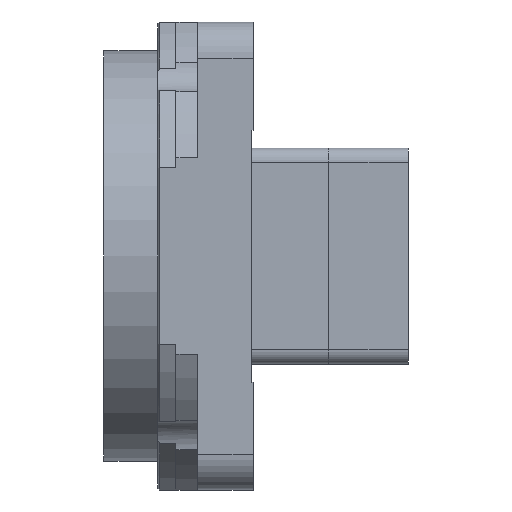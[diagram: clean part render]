
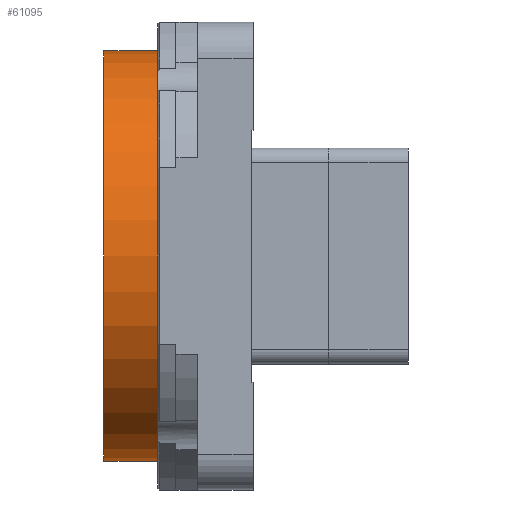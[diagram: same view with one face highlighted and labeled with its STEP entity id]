
A CAD part, left-side view. The second image highlights one B-rep face of the part: STEP entity #61095.
In plain terms, the highlighted cylindrical face has radius 57 mm (diameter 114 mm), a partial arc.
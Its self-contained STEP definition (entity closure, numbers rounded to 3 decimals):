
#55751 = PLANE('',#55752);
#55752 = AXIS2_PLACEMENT_3D('',#55753,#55754,#55755);
#55753 = CARTESIAN_POINT('',(-90.05,4.99,
    159.4));
#55754 = DIRECTION('',(0.,1.,0.));
#55755 = DIRECTION('',(0.,-0.,1.));
#59809 = VERTEX_POINT('',#59810);
#59810 = CARTESIAN_POINT('',(-90.05,4.99,
    102.4));
#59811 = VERTEX_POINT('',#59812);
#59812 = CARTESIAN_POINT('',(-90.05,4.99,
    216.4));
#59831 = CYLINDRICAL_SURFACE('',#59832,57.);
#59832 = AXIS2_PLACEMENT_3D('',#59833,#59834,#59835);
#59833 = CARTESIAN_POINT('',(-90.05,20.09,
    159.4));
#59834 = DIRECTION('',(-0.,-1.,-0.));
#59835 = DIRECTION('',(0.,0.,-1.));
#59843 = EDGE_CURVE('',#59811,#59809,#59844,.T.);
#59844 = SURFACE_CURVE('',#59845,(#59850,#59861),.PCURVE_S1.);
#59845 = CIRCLE('',#59846,57.);
#59846 = AXIS2_PLACEMENT_3D('',#59847,#59848,#59849);
#59847 = CARTESIAN_POINT('',(-90.05,4.99,
    159.4));
#59848 = DIRECTION('',(0.,-1.,-0.));
#59849 = DIRECTION('',(0.,0.,-1.));
#59850 = PCURVE('',#55751,#59851);
#59851 = DEFINITIONAL_REPRESENTATION('',(#59852),#59860);
#59852 = ( BOUNDED_CURVE() B_SPLINE_CURVE(2,(#59853,#59854,#59855,#59856
    ,#59857,#59858,#59859),.UNSPECIFIED.,.T.,.F.) 
B_SPLINE_CURVE_WITH_KNOTS((1,2,2,2,2,1),(-2.094,0.,
    2.094,4.189,6.283,8.378),
.UNSPECIFIED.) CURVE() GEOMETRIC_REPRESENTATION_ITEM() 
RATIONAL_B_SPLINE_CURVE((1.,0.5,1.,0.5,1.,0.5,1.)) REPRESENTATION_ITEM(
  '') );
#59853 = CARTESIAN_POINT('',(-57.,0.));
#59854 = CARTESIAN_POINT('',(-57.,98.727));
#59855 = CARTESIAN_POINT('',(28.5,49.363));
#59856 = CARTESIAN_POINT('',(114.,0.));
#59857 = CARTESIAN_POINT('',(28.5,-49.363));
#59858 = CARTESIAN_POINT('',(-57.,-98.727));
#59859 = CARTESIAN_POINT('',(-57.,0.));
#59860 = ( GEOMETRIC_REPRESENTATION_CONTEXT(2) 
PARAMETRIC_REPRESENTATION_CONTEXT() REPRESENTATION_CONTEXT('2D SPACE',''
  ) );
#59861 = PCURVE('',#59862,#59867);
#59862 = CYLINDRICAL_SURFACE('',#59863,57.);
#59863 = AXIS2_PLACEMENT_3D('',#59864,#59865,#59866);
#59864 = CARTESIAN_POINT('',(-90.05,20.09,
    159.4));
#59865 = DIRECTION('',(-0.,-1.,-0.));
#59866 = DIRECTION('',(0.,0.,-1.));
#59867 = DEFINITIONAL_REPRESENTATION('',(#59868),#59872);
#59868 = LINE('',#59869,#59870);
#59869 = CARTESIAN_POINT('',(0.,15.1));
#59870 = VECTOR('',#59871,1.);
#59871 = DIRECTION('',(1.,0.));
#59872 = ( GEOMETRIC_REPRESENTATION_CONTEXT(2) 
PARAMETRIC_REPRESENTATION_CONTEXT() REPRESENTATION_CONTEXT('2D SPACE',''
  ) );
#61019 = VERTEX_POINT('',#61020);
#61020 = CARTESIAN_POINT('',(-90.05,20.09,
    102.4));
#61021 = VERTEX_POINT('',#61022);
#61022 = CARTESIAN_POINT('',(-90.05,20.09,
    216.4));
#61037 = PLANE('',#61038);
#61038 = AXIS2_PLACEMENT_3D('',#61039,#61040,#61041);
#61039 = CARTESIAN_POINT('',(-90.05,20.09,
    159.4));
#61040 = DIRECTION('',(0.,1.,0.));
#61041 = DIRECTION('',(0.,-0.,1.));
#61053 = EDGE_CURVE('',#61021,#59811,#61054,.T.);
#61054 = SURFACE_CURVE('',#61055,(#61059,#61066),.PCURVE_S1.);
#61055 = LINE('',#61056,#61057);
#61056 = CARTESIAN_POINT('',(-90.05,20.09,
    216.4));
#61057 = VECTOR('',#61058,1.);
#61058 = DIRECTION('',(-0.,-1.,-0.));
#61059 = PCURVE('',#59831,#61060);
#61060 = DEFINITIONAL_REPRESENTATION('',(#61061),#61065);
#61061 = LINE('',#61062,#61063);
#61062 = CARTESIAN_POINT('',(3.142,0.));
#61063 = VECTOR('',#61064,1.);
#61064 = DIRECTION('',(0.,1.));
#61065 = ( GEOMETRIC_REPRESENTATION_CONTEXT(2) 
PARAMETRIC_REPRESENTATION_CONTEXT() REPRESENTATION_CONTEXT('2D SPACE',''
  ) );
#61066 = PCURVE('',#59862,#61067);
#61067 = DEFINITIONAL_REPRESENTATION('',(#61068),#61072);
#61068 = LINE('',#61069,#61070);
#61069 = CARTESIAN_POINT('',(3.142,0.));
#61070 = VECTOR('',#61071,1.);
#61071 = DIRECTION('',(0.,1.));
#61072 = ( GEOMETRIC_REPRESENTATION_CONTEXT(2) 
PARAMETRIC_REPRESENTATION_CONTEXT() REPRESENTATION_CONTEXT('2D SPACE',''
  ) );
#61075 = EDGE_CURVE('',#61019,#59809,#61076,.T.);
#61076 = SURFACE_CURVE('',#61077,(#61081,#61088),.PCURVE_S1.);
#61077 = LINE('',#61078,#61079);
#61078 = CARTESIAN_POINT('',(-90.05,20.09,
    102.4));
#61079 = VECTOR('',#61080,1.);
#61080 = DIRECTION('',(-0.,-1.,-0.));
#61081 = PCURVE('',#59831,#61082);
#61082 = DEFINITIONAL_REPRESENTATION('',(#61083),#61087);
#61083 = LINE('',#61084,#61085);
#61084 = CARTESIAN_POINT('',(0.,0.));
#61085 = VECTOR('',#61086,1.);
#61086 = DIRECTION('',(0.,1.));
#61087 = ( GEOMETRIC_REPRESENTATION_CONTEXT(2) 
PARAMETRIC_REPRESENTATION_CONTEXT() REPRESENTATION_CONTEXT('2D SPACE',''
  ) );
#61088 = PCURVE('',#59862,#61089);
#61089 = DEFINITIONAL_REPRESENTATION('',(#61090),#61094);
#61090 = LINE('',#61091,#61092);
#61091 = CARTESIAN_POINT('',(6.283,0.));
#61092 = VECTOR('',#61093,1.);
#61093 = DIRECTION('',(0.,1.));
#61094 = ( GEOMETRIC_REPRESENTATION_CONTEXT(2) 
PARAMETRIC_REPRESENTATION_CONTEXT() REPRESENTATION_CONTEXT('2D SPACE',''
  ) );
#61095 = ADVANCED_FACE('',(#61096),#59862,.T.);
#61096 = FACE_BOUND('',#61097,.T.);
#61097 = EDGE_LOOP('',(#61098,#61099,#61125,#61126));
#61098 = ORIENTED_EDGE('',*,*,#61053,.F.);
#61099 = ORIENTED_EDGE('',*,*,#61100,.T.);
#61100 = EDGE_CURVE('',#61021,#61019,#61101,.T.);
#61101 = SURFACE_CURVE('',#61102,(#61107,#61114),.PCURVE_S1.);
#61102 = CIRCLE('',#61103,57.);
#61103 = AXIS2_PLACEMENT_3D('',#61104,#61105,#61106);
#61104 = CARTESIAN_POINT('',(-90.05,20.09,
    159.4));
#61105 = DIRECTION('',(0.,-1.,-0.));
#61106 = DIRECTION('',(0.,0.,-1.));
#61107 = PCURVE('',#59862,#61108);
#61108 = DEFINITIONAL_REPRESENTATION('',(#61109),#61113);
#61109 = LINE('',#61110,#61111);
#61110 = CARTESIAN_POINT('',(0.,0.));
#61111 = VECTOR('',#61112,1.);
#61112 = DIRECTION('',(1.,0.));
#61113 = ( GEOMETRIC_REPRESENTATION_CONTEXT(2) 
PARAMETRIC_REPRESENTATION_CONTEXT() REPRESENTATION_CONTEXT('2D SPACE',''
  ) );
#61114 = PCURVE('',#61037,#61115);
#61115 = DEFINITIONAL_REPRESENTATION('',(#61116),#61124);
#61116 = ( BOUNDED_CURVE() B_SPLINE_CURVE(2,(#61117,#61118,#61119,#61120
    ,#61121,#61122,#61123),.UNSPECIFIED.,.T.,.F.) 
B_SPLINE_CURVE_WITH_KNOTS((1,2,2,2,2,1),(-2.094,0.,
    2.094,4.189,6.283,8.378),
.UNSPECIFIED.) CURVE() GEOMETRIC_REPRESENTATION_ITEM() 
RATIONAL_B_SPLINE_CURVE((1.,0.5,1.,0.5,1.,0.5,1.)) REPRESENTATION_ITEM(
  '') );
#61117 = CARTESIAN_POINT('',(-57.,0.));
#61118 = CARTESIAN_POINT('',(-57.,98.727));
#61119 = CARTESIAN_POINT('',(28.5,49.363));
#61120 = CARTESIAN_POINT('',(114.,0.));
#61121 = CARTESIAN_POINT('',(28.5,-49.363));
#61122 = CARTESIAN_POINT('',(-57.,-98.727));
#61123 = CARTESIAN_POINT('',(-57.,0.));
#61124 = ( GEOMETRIC_REPRESENTATION_CONTEXT(2) 
PARAMETRIC_REPRESENTATION_CONTEXT() REPRESENTATION_CONTEXT('2D SPACE',''
  ) );
#61125 = ORIENTED_EDGE('',*,*,#61075,.T.);
#61126 = ORIENTED_EDGE('',*,*,#59843,.F.);
